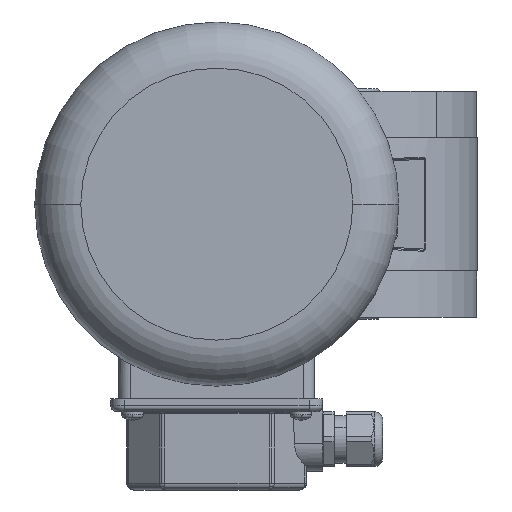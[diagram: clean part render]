
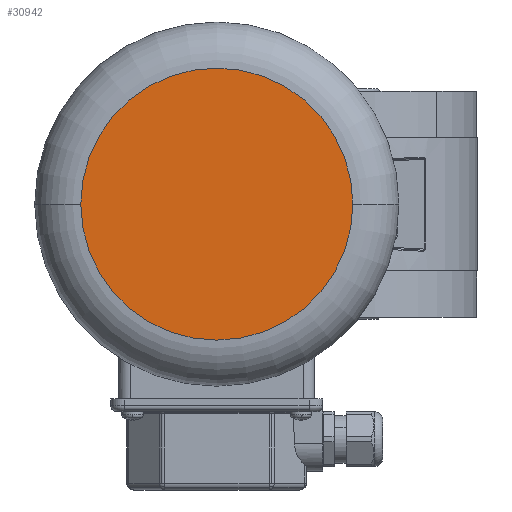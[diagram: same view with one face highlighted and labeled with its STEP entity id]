
A CAD part, left-side view. The second image highlights one B-rep face of the part: STEP entity #30942.
In plain terms, the highlighted planar face has unit normal (-1, 0, 0) as drawn and (1, 0, 0) by its records, which use the part's own axes.
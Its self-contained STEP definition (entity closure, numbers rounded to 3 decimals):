
#2682 = DIRECTION ( 'NONE',  ( -1., 0., 0. ) ) ;
#3360 = EDGE_LOOP ( 'NONE', ( #31497, #8120 ) ) ;
#4797 = CARTESIAN_POINT ( 'NONE',  ( 234., 0., 0. ) ) ;
#6281 = AXIS2_PLACEMENT_3D ( 'NONE', #4797, #19333, #16693 ) ;
#7321 = CIRCLE ( 'NONE', #6281, 59. ) ;
#7964 = DIRECTION ( 'NONE',  ( 0., 0., 1. ) ) ;
#8120 = ORIENTED_EDGE ( 'NONE', *, *, #11633, .F. ) ;
#10194 = DIRECTION ( 'NONE',  ( -1., 0., 0. ) ) ;
#10450 = CARTESIAN_POINT ( 'NONE',  ( 234., 0., 0. ) ) ;
#11633 = EDGE_CURVE ( 'NONE', #15868, #23444, #17268, .T. ) ;
#12338 = DIRECTION ( 'NONE',  ( 0., 0., 1. ) ) ;
#15868 = VERTEX_POINT ( 'NONE', #23682 ) ;
#16693 = DIRECTION ( 'NONE',  ( 0., 0., 1. ) ) ;
#17268 = CIRCLE ( 'NONE', #17791, 59. ) ;
#17791 = AXIS2_PLACEMENT_3D ( 'NONE', #10450, #2682, #7964 ) ;
#19333 = DIRECTION ( 'NONE',  ( -1., 0., 0. ) ) ;
#22464 = EDGE_CURVE ( 'NONE', #23444, #15868, #7321, .T. ) ;
#22721 = CARTESIAN_POINT ( 'NONE',  ( 234., 0., 0. ) ) ;
#23444 = VERTEX_POINT ( 'NONE', #26748 ) ;
#23682 = CARTESIAN_POINT ( 'NONE',  ( 234., 0., -59. ) ) ;
#25195 = FACE_OUTER_BOUND ( 'NONE', #3360, .T. ) ;
#26748 = CARTESIAN_POINT ( 'NONE',  ( 234., 0., 59. ) ) ;
#27999 = PLANE ( 'NONE',  #30605 ) ;
#30605 = AXIS2_PLACEMENT_3D ( 'NONE', #22721, #10194, #12338 ) ;
#30942 = ADVANCED_FACE ( 'NONE', ( #25195 ), #27999, .F. ) ;
#31497 = ORIENTED_EDGE ( 'NONE', *, *, #22464, .F. ) ;
